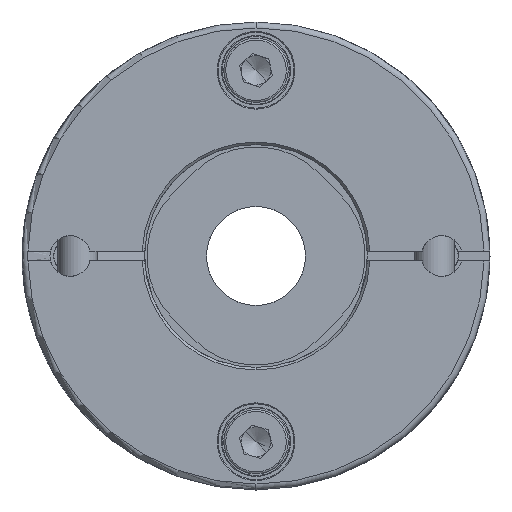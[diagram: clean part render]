
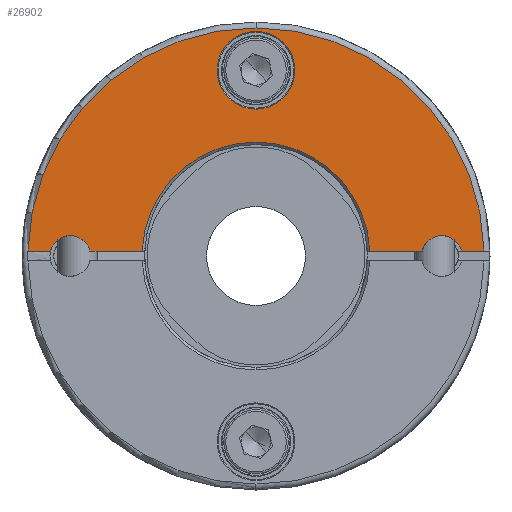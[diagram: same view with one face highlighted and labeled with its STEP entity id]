
A CAD part, front view. The second image highlights one B-rep face of the part: STEP entity #26902.
In plain terms, the highlighted planar face has unit normal (0, -1, 0).
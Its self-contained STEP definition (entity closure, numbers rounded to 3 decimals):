
#1033 = CARTESIAN_POINT ( 'NONE',  ( 0., -98.9, 0. ) ) ;
#1034 = DIRECTION ( 'NONE',  ( 0., -1., 0. ) ) ;
#1035 = DIRECTION ( 'NONE',  ( 0., 0., -1. ) ) ;
#1488 = CARTESIAN_POINT ( 'NONE',  ( 0., -98.9, 37.5 ) ) ;
#1489 = DIRECTION ( 'NONE',  ( 0., 1., 0. ) ) ;
#1490 = DIRECTION ( 'NONE',  ( 0., 0., -1. ) ) ;
#2079 = VERTEX_POINT ( 'NONE', #5569 ) ;
#2080 = VERTEX_POINT ( 'NONE', #5582 ) ;
#3179 = EDGE_LOOP ( 'NONE', ( #11020, #11021, #11022, #11023, #11024, #11025, #11026, #11027, #11028, #11029 ) ) ;
#3201 = EDGE_LOOP ( 'NONE', ( #11030, #11031 ) ) ;
#3228 = AXIS2_PLACEMENT_3D ( 'NONE', #6848, #6849, #6850 ) ;
#3459 = AXIS2_PLACEMENT_3D ( 'NONE', #6283, #6284, #6285 ) ;
#4928 = CARTESIAN_POINT ( 'NONE',  ( 33.524, -98.9, 1. ) ) ;
#4979 = CARTESIAN_POINT ( 'NONE',  ( 41.476, -98.9, 1. ) ) ;
#5106 = CARTESIAN_POINT ( 'NONE',  ( -22.978, -98.9, 1. ) ) ;
#5108 = CARTESIAN_POINT ( 'NONE',  ( -33.524, -98.9, 1. ) ) ;
#5128 = CARTESIAN_POINT ( 'NONE',  ( 22.978, -98.9, 1. ) ) ;
#5569 = CARTESIAN_POINT ( 'NONE',  ( 0., -98.9, 46.05 ) ) ;
#5582 = CARTESIAN_POINT ( 'NONE',  ( 46.039, -98.9, 1. ) ) ;
#5610 = CARTESIAN_POINT ( 'NONE',  ( -41.476, -98.9, 1. ) ) ;
#5611 = CARTESIAN_POINT ( 'NONE',  ( -37.5, -98.9, 4.1 ) ) ;
#5706 = CARTESIAN_POINT ( 'NONE',  ( 0., -98.9, 45.35 ) ) ;
#5714 = CARTESIAN_POINT ( 'NONE',  ( 0., -98.9, 29.65 ) ) ;
#5724 = CARTESIAN_POINT ( 'NONE',  ( -46.039, -98.9, 1. ) ) ;
#6283 = CARTESIAN_POINT ( 'NONE',  ( 0., -98.9, 0. ) ) ;
#6284 = DIRECTION ( 'NONE',  ( 0., -1., 0. ) ) ;
#6285 = DIRECTION ( 'NONE',  ( 0., 0., -1. ) ) ;
#6848 = CARTESIAN_POINT ( 'NONE',  ( -37.5, -98.9, 0. ) ) ;
#6849 = DIRECTION ( 'NONE',  ( 0., -1., 0. ) ) ;
#6850 = DIRECTION ( 'NONE',  ( 0., 0., -1. ) ) ;
#9234 = PLANE ( 'NONE',  #21779 ) ;
#9235 = CARTESIAN_POINT ( 'NONE',  ( 0., -98.9, 0. ) ) ;
#9240 = DIRECTION ( 'NONE',  ( 0., -1., 0. ) ) ;
#9241 = DIRECTION ( 'NONE',  ( 0., 0., -1. ) ) ;
#10544 = VERTEX_POINT ( 'NONE', #5610 ) ;
#10545 = VERTEX_POINT ( 'NONE', #5611 ) ;
#10640 = VERTEX_POINT ( 'NONE', #5724 ) ;
#10973 = VERTEX_POINT ( 'NONE', #5714 ) ;
#10974 = VERTEX_POINT ( 'NONE', #5706 ) ;
#11020 = ORIENTED_EDGE ( 'NONE', *, *, #23432, .T. ) ;
#11021 = ORIENTED_EDGE ( 'NONE', *, *, #23440, .T. ) ;
#11022 = ORIENTED_EDGE ( 'NONE', *, *, #23418, .T. ) ;
#11023 = ORIENTED_EDGE ( 'NONE', *, *, #23447, .F. ) ;
#11024 = ORIENTED_EDGE ( 'NONE', *, *, #23428, .T. ) ;
#11025 = ORIENTED_EDGE ( 'NONE', *, *, #26249, .T. ) ;
#11026 = ORIENTED_EDGE ( 'NONE', *, *, #25907, .T. ) ;
#11027 = ORIENTED_EDGE ( 'NONE', *, *, #23390, .T. ) ;
#11028 = ORIENTED_EDGE ( 'NONE', *, *, #26207, .F. ) ;
#11029 = ORIENTED_EDGE ( 'NONE', *, *, #23419, .F. ) ;
#11030 = ORIENTED_EDGE ( 'NONE', *, *, #26383, .T. ) ;
#11031 = ORIENTED_EDGE ( 'NONE', *, *, #23461, .T. ) ;
#13341 = VERTEX_POINT ( 'NONE', #5128 ) ;
#13358 = VERTEX_POINT ( 'NONE', #5108 ) ;
#13360 = VERTEX_POINT ( 'NONE', #5106 ) ;
#13482 = VERTEX_POINT ( 'NONE', #4979 ) ;
#13537 = VERTEX_POINT ( 'NONE', #4928 ) ;
#14419 = CIRCLE ( 'NONE', #3459, 46.05 ) ;
#14865 = FACE_OUTER_BOUND ( 'NONE', #3179, .T. ) ;
#14873 = FACE_BOUND ( 'NONE', #3201, .T. ) ;
#16430 = AXIS2_PLACEMENT_3D ( 'NONE', #1488, #1489, #1490 ) ;
#17538 = AXIS2_PLACEMENT_3D ( 'NONE', #1033, #1034, #1035 ) ;
#18133 = CIRCLE ( 'NONE', #3228, 4.1 ) ;
#18264 = CIRCLE ( 'NONE', #17538, 46.05 ) ;
#18559 = CIRCLE ( 'NONE', #16430, 7.85 ) ;
#18988 = LINE ( 'NONE', #22477, #18990 ) ;
#18990 = VECTOR ( 'NONE', #22478, 1000. ) ;
#19031 = LINE ( 'NONE', #22379, #19033 ) ;
#19032 = CIRCLE ( 'NONE', #25382, 4.1 ) ;
#19033 = VECTOR ( 'NONE', #22376, 1000. ) ;
#19044 = LINE ( 'NONE', #22313, #19047 ) ;
#19047 = VECTOR ( 'NONE', #22255, 1000. ) ;
#19049 = LINE ( 'NONE', #22235, #19052 ) ;
#19052 = VECTOR ( 'NONE', #22328, 1000. ) ;
#19057 = CIRCLE ( 'NONE', #25363, 23. ) ;
#19069 = CIRCLE ( 'NONE', #25356, 4.1 ) ;
#19090 = CIRCLE ( 'NONE', #25350, 7.85 ) ;
#19803 = DIRECTION ( 'NONE',  ( 0., 0., -1. ) ) ;
#20264 = CARTESIAN_POINT ( 'NONE',  ( 0., -98.9, 37.5 ) ) ;
#20268 = DIRECTION ( 'NONE',  ( 0., 1., 0. ) ) ;
#20392 = DIRECTION ( 'NONE',  ( 0., 0., -1. ) ) ;
#20394 = DIRECTION ( 'NONE',  ( 0., -1., 0. ) ) ;
#20396 = CARTESIAN_POINT ( 'NONE',  ( 37.5, -98.9, 0. ) ) ;
#21779 = AXIS2_PLACEMENT_3D ( 'NONE', #9235, #9240, #9241 ) ;
#22179 = DIRECTION ( 'NONE',  ( 0., 0., -1. ) ) ;
#22181 = DIRECTION ( 'NONE',  ( 0., 1., 0. ) ) ;
#22182 = CARTESIAN_POINT ( 'NONE',  ( 0., -98.9, 0. ) ) ;
#22235 = CARTESIAN_POINT ( 'NONE',  ( 0., -98.9, 1. ) ) ;
#22255 = DIRECTION ( 'NONE',  ( 1., 0., 0. ) ) ;
#22313 = CARTESIAN_POINT ( 'NONE',  ( 0., -98.9, 1. ) ) ;
#22328 = DIRECTION ( 'NONE',  ( 1., 0., 0. ) ) ;
#22352 = DIRECTION ( 'NONE',  ( 0., 0., -1. ) ) ;
#22354 = DIRECTION ( 'NONE',  ( 0., -1., 0. ) ) ;
#22356 = CARTESIAN_POINT ( 'NONE',  ( -37.5, -98.9, 0. ) ) ;
#22376 = DIRECTION ( 'NONE',  ( 1., 0., 0. ) ) ;
#22379 = CARTESIAN_POINT ( 'NONE',  ( 0., -98.9, 1. ) ) ;
#22477 = CARTESIAN_POINT ( 'NONE',  ( 0., -98.9, 1. ) ) ;
#22478 = DIRECTION ( 'NONE',  ( 1., 0., 0. ) ) ;
#23390 = EDGE_CURVE ( 'NONE', #10640, #10544, #18988, .T. ) ;
#23418 = EDGE_CURVE ( 'NONE', #13341, #13537, #19031, .T. ) ;
#23419 = EDGE_CURVE ( 'NONE', #13358, #10545, #19032, .T. ) ;
#23428 = EDGE_CURVE ( 'NONE', #13482, #2080, #19044, .T. ) ;
#23432 = EDGE_CURVE ( 'NONE', #13358, #13360, #19049, .T. ) ;
#23440 = EDGE_CURVE ( 'NONE', #13360, #13341, #19057, .T. ) ;
#23447 = EDGE_CURVE ( 'NONE', #13482, #13537, #19069, .T. ) ;
#23461 = EDGE_CURVE ( 'NONE', #10974, #10973, #19090, .T. ) ;
#25350 = AXIS2_PLACEMENT_3D ( 'NONE', #20264, #20268, #19803 ) ;
#25356 = AXIS2_PLACEMENT_3D ( 'NONE', #20396, #20394, #20392 ) ;
#25363 = AXIS2_PLACEMENT_3D ( 'NONE', #22182, #22181, #22179 ) ;
#25382 = AXIS2_PLACEMENT_3D ( 'NONE', #22356, #22354, #22352 ) ;
#25907 = EDGE_CURVE ( 'NONE', #2079, #10640, #14419, .T. ) ;
#26207 = EDGE_CURVE ( 'NONE', #10545, #10544, #18133, .T. ) ;
#26249 = EDGE_CURVE ( 'NONE', #2080, #2079, #18264, .T. ) ;
#26383 = EDGE_CURVE ( 'NONE', #10973, #10974, #18559, .T. ) ;
#26902 = ADVANCED_FACE ( 'NONE', ( #14865, #14873 ), #9234, .T. ) ;
